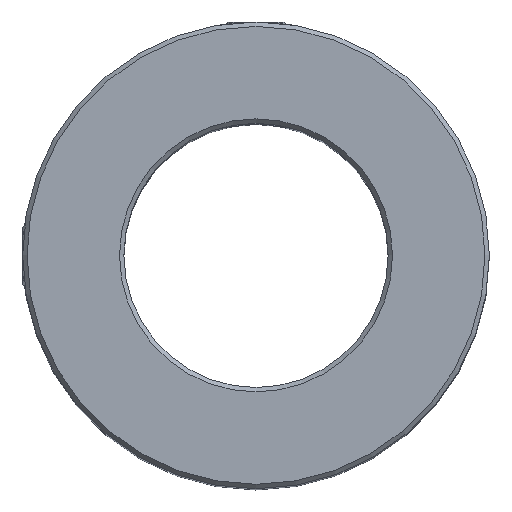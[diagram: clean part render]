
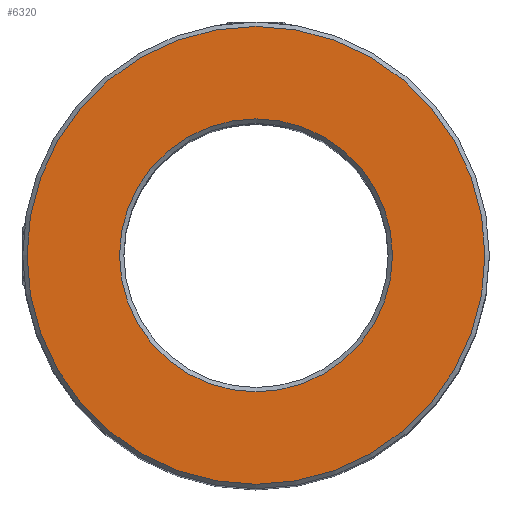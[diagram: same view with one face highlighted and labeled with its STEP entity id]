
A CAD part, top view. The second image highlights one B-rep face of the part: STEP entity #6320.
In plain terms, the highlighted planar face has unit normal (0, 0, 1).
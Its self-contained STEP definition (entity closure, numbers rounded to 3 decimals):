
#300 = ORIENTED_EDGE ( 'NONE', *, *, #7687, .T. ) ;
#363 = ORIENTED_EDGE ( 'NONE', *, *, #7793, .T. ) ;
#627 = DIRECTION ( 'NONE',  ( 0., 0., -1. ) ) ;
#950 = CARTESIAN_POINT ( 'NONE',  ( 0., 0., 41.5 ) ) ;
#1931 = CARTESIAN_POINT ( 'NONE',  ( 0., 0., 41.5 ) ) ;
#1964 = VERTEX_POINT ( 'NONE', #6542 ) ;
#1970 = DIRECTION ( 'NONE',  ( 1., 0., 0. ) ) ;
#2176 = AXIS2_PLACEMENT_3D ( 'NONE', #1931, #627, #1970 ) ;
#2285 = DIRECTION ( 'NONE',  ( 0., 0., 1. ) ) ;
#2527 = CARTESIAN_POINT ( 'NONE',  ( 15.5, 0., 41.5 ) ) ;
#2558 = AXIS2_PLACEMENT_3D ( 'NONE', #950, #2285, #3563 ) ;
#3563 = DIRECTION ( 'NONE',  ( 1., 0., 0. ) ) ;
#3574 = CIRCLE ( 'NONE', #5643, 26. ) ;
#3609 = PLANE ( 'NONE',  #2558 ) ;
#3886 = VERTEX_POINT ( 'NONE', #2527 ) ;
#4253 = FACE_BOUND ( 'NONE', #5134, .T. ) ;
#4615 = DIRECTION ( 'NONE',  ( 1., 0., 0. ) ) ;
#5134 = EDGE_LOOP ( 'NONE', ( #300 ) ) ;
#5577 = EDGE_LOOP ( 'NONE', ( #363 ) ) ;
#5628 = FACE_OUTER_BOUND ( 'NONE', #5577, .T. ) ;
#5643 = AXIS2_PLACEMENT_3D ( 'NONE', #5975, #7148, #4615 ) ;
#5975 = CARTESIAN_POINT ( 'NONE',  ( 0., 0., 41.5 ) ) ;
#6320 = ADVANCED_FACE ( 'NONE', ( #4253, #5628 ), #3609, .T. ) ;
#6542 = CARTESIAN_POINT ( 'NONE',  ( 26., 0., 41.5 ) ) ;
#7148 = DIRECTION ( 'NONE',  ( 0., 0., 1. ) ) ;
#7687 = EDGE_CURVE ( 'NONE', #3886, #3886, #8018, .T. ) ;
#7793 = EDGE_CURVE ( 'NONE', #1964, #1964, #3574, .T. ) ;
#8018 = CIRCLE ( 'NONE', #2176, 15.5 ) ;
